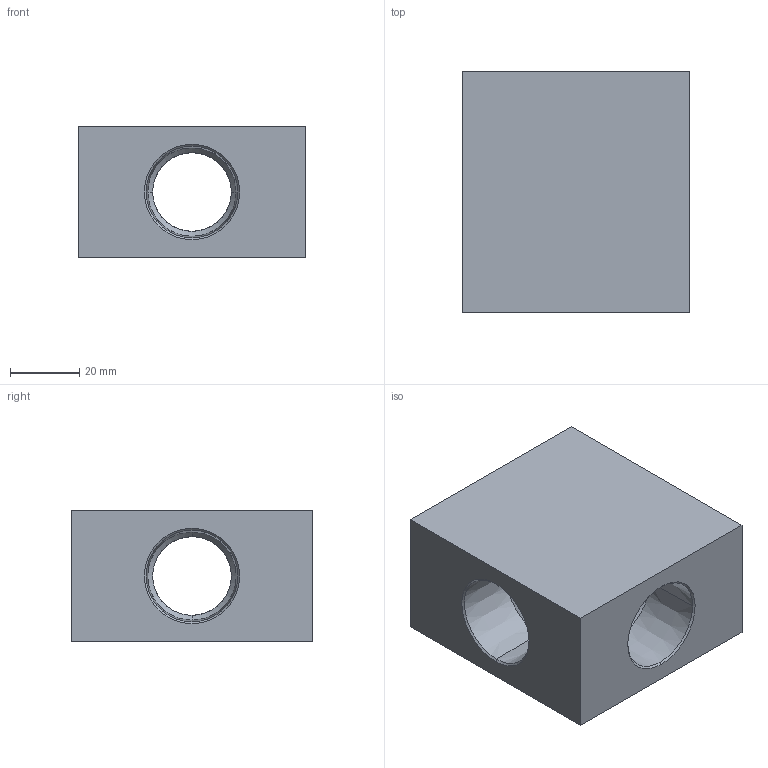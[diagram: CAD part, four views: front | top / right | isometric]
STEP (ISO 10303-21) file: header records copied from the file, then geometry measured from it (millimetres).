
FILE_DESCRIPTION (( 'STEP AP203' ), '1' );
FILE_NAME ('FTNCS12.STEP', '2026-06-26T00:52:57', ( 'USER' ), ( '' ), 'SwSTEP 2.0', 'SolidWorks 2023', '' );
FILE_SCHEMA (( 'CONFIG_CONTROL_DESIGN' ));
Length unit declared in the file: millimetre
Products named in the file (1): FTNCS12
Bounding box: 66 x 70 x 38 mm (x, y, z)
Volume: 118655.3 mm3; surface area: 25869.4 mm2
Topology: 1 solids, 1 shells, 38 faces, 88 edges, 50 vertices
Faces by surface type: cone 24, cylinder 8, plane 6
Entity records: 1149 total; most frequent: CARTESIAN_POINT 201, DIRECTION 194, ORIENTED_EDGE 176, EDGE_CURVE 88, AXIS2_PLACEMENT_3D 75, VERTEX_POINT 50, VECTOR 44, LINE 44
